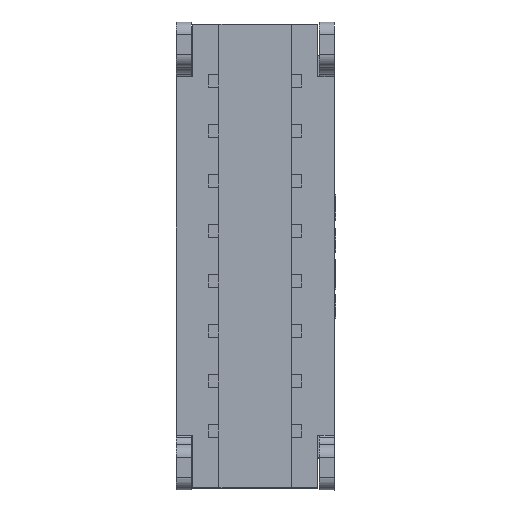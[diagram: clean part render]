
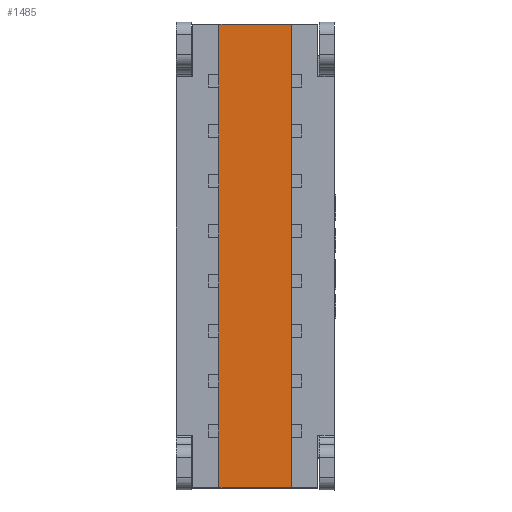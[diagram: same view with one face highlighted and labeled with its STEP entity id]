
A CAD part, top view. The second image highlights one B-rep face of the part: STEP entity #1485.
In plain terms, the highlighted planar face has unit normal (0, 0, 1).
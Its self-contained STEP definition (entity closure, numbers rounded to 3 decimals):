
#946 = VECTOR ( 'NONE', #10622, 1000. ) ;
#985 = CARTESIAN_POINT ( 'NONE',  ( 4.709, 25.485, 8.642 ) ) ;
#1207 = LINE ( 'NONE', #10391, #25577 ) ;
#1267 = PLANE ( 'NONE',  #12459 ) ;
#1485 = ADVANCED_FACE ( 'NONE', ( #26564 ), #1267, .T. ) ;
#2978 = LINE ( 'NONE', #16374, #26892 ) ;
#3552 = LINE ( 'NONE', #985, #946 ) ;
#4021 = VERTEX_POINT ( 'NONE', #12508 ) ;
#5268 = EDGE_CURVE ( 'NONE', #11371, #14676, #1207, .T. ) ;
#6965 = CARTESIAN_POINT ( 'NONE',  ( 4.584, 16.215, 8.642 ) ) ;
#9775 = EDGE_LOOP ( 'NONE', ( #16751, #23058, #22006, #17093 ) ) ;
#10194 = VERTEX_POINT ( 'NONE', #15311 ) ;
#10391 = CARTESIAN_POINT ( 'NONE',  ( 3.384, 25.485, 8.642 ) ) ;
#10622 = DIRECTION ( 'NONE',  ( 0., -1., 0. ) ) ;
#11371 = VERTEX_POINT ( 'NONE', #16182 ) ;
#12257 = CARTESIAN_POINT ( 'NONE',  ( 3.567, 20.261, 8.642 ) ) ;
#12459 = AXIS2_PLACEMENT_3D ( 'NONE', #12257, #17085, #26260 ) ;
#12508 = CARTESIAN_POINT ( 'NONE',  ( 4.709, 16.215, 8.642 ) ) ;
#13349 = EDGE_CURVE ( 'NONE', #10194, #11371, #2978, .T. ) ;
#13869 = EDGE_CURVE ( 'NONE', #14676, #4021, #3552, .T. ) ;
#14676 = VERTEX_POINT ( 'NONE', #19847 ) ;
#15311 = CARTESIAN_POINT ( 'NONE',  ( 3.259, 16.215, 8.642 ) ) ;
#15879 = LINE ( 'NONE', #6965, #21575 ) ;
#16182 = CARTESIAN_POINT ( 'NONE',  ( 3.259, 25.485, 8.642 ) ) ;
#16374 = CARTESIAN_POINT ( 'NONE',  ( 3.259, 16.215, 8.642 ) ) ;
#16751 = ORIENTED_EDGE ( 'NONE', *, *, #5268, .F. ) ;
#17085 = DIRECTION ( 'NONE',  ( 0., 0., 1. ) ) ;
#17093 = ORIENTED_EDGE ( 'NONE', *, *, #13869, .F. ) ;
#18278 = DIRECTION ( 'NONE',  ( -1., 0., 0. ) ) ;
#19581 = DIRECTION ( 'NONE',  ( 1., 0., 0. ) ) ;
#19847 = CARTESIAN_POINT ( 'NONE',  ( 4.709, 25.485, 8.642 ) ) ;
#21575 = VECTOR ( 'NONE', #18278, 1000. ) ;
#22006 = ORIENTED_EDGE ( 'NONE', *, *, #28512, .F. ) ;
#23058 = ORIENTED_EDGE ( 'NONE', *, *, #13349, .F. ) ;
#23284 = DIRECTION ( 'NONE',  ( 0., 1., 0. ) ) ;
#25577 = VECTOR ( 'NONE', #19581, 1000. ) ;
#26260 = DIRECTION ( 'NONE',  ( 0., -1., 0. ) ) ;
#26564 = FACE_OUTER_BOUND ( 'NONE', #9775, .T. ) ;
#26892 = VECTOR ( 'NONE', #23284, 1000. ) ;
#28512 = EDGE_CURVE ( 'NONE', #4021, #10194, #15879, .T. ) ;
